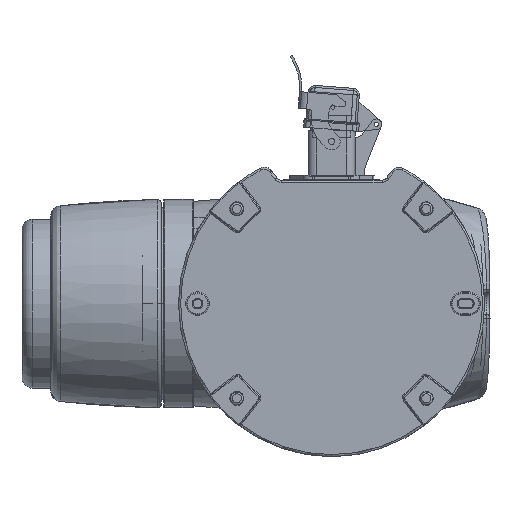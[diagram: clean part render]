
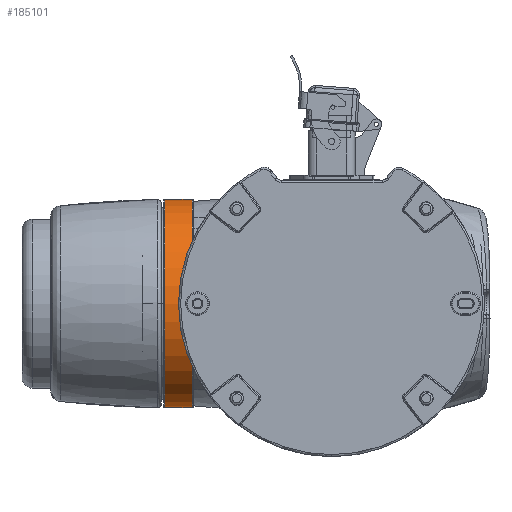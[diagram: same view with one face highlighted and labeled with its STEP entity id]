
A CAD part, front view. The second image highlights one B-rep face of the part: STEP entity #185101.
In plain terms, the highlighted cylindrical face has radius 49 mm (diameter 98 mm), a partial arc.
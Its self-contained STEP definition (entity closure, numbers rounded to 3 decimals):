
#7657 = DIRECTION ( 'NONE',  ( 0., 0., 1. ) ) ;
#11226 = CARTESIAN_POINT ( 'NONE',  ( -79., 0., -49. ) ) ;
#11619 = DIRECTION ( 'NONE',  ( -1., 0., 0. ) ) ;
#14093 = DIRECTION ( 'NONE',  ( -1., 0., 0. ) ) ;
#17944 = VECTOR ( 'NONE', #14093, 1000. ) ;
#29906 = VECTOR ( 'NONE', #135539, 1000. ) ;
#33277 = EDGE_CURVE ( 'NONE', #133392, #78186, #140582, .T. ) ;
#34431 = CARTESIAN_POINT ( 'NONE',  ( -78.5, 0., 49. ) ) ;
#38107 = ORIENTED_EDGE ( 'NONE', *, *, #33277, .T. ) ;
#46656 = LINE ( 'NONE', #222134, #17944 ) ;
#51315 = ORIENTED_EDGE ( 'NONE', *, *, #174202, .T. ) ;
#54729 = VERTEX_POINT ( 'NONE', #159856 ) ;
#63923 = FACE_OUTER_BOUND ( 'NONE', #89880, .T. ) ;
#68818 = ORIENTED_EDGE ( 'NONE', *, *, #96187, .F. ) ;
#78186 = VERTEX_POINT ( 'NONE', #152640 ) ;
#89880 = EDGE_LOOP ( 'NONE', ( #68818, #51315, #188025, #38107 ) ) ;
#96187 = EDGE_CURVE ( 'NONE', #54729, #78186, #206398, .T. ) ;
#99900 = CYLINDRICAL_SURFACE ( 'NONE', #197304, 49. ) ;
#118479 = DIRECTION ( 'NONE',  ( 0., 0., 1. ) ) ;
#133392 = VERTEX_POINT ( 'NONE', #34431 ) ;
#135539 = DIRECTION ( 'NONE',  ( -1., 0., 0. ) ) ;
#140582 = CIRCLE ( 'NONE', #181388, 49. ) ;
#152640 = CARTESIAN_POINT ( 'NONE',  ( -78.5, 0., -49. ) ) ;
#159856 = CARTESIAN_POINT ( 'NONE',  ( -65.5, 0., -49. ) ) ;
#169393 = DIRECTION ( 'NONE',  ( 0., 0., -1. ) ) ;
#170789 = CARTESIAN_POINT ( 'NONE',  ( -79., 0., 0. ) ) ;
#174202 = EDGE_CURVE ( 'NONE', #54729, #199046, #178552, .T. ) ;
#178552 = CIRCLE ( 'NONE', #193474, 49. ) ;
#181388 = AXIS2_PLACEMENT_3D ( 'NONE', #206554, #223963, #169393 ) ;
#185101 = ADVANCED_FACE ( 'NONE', ( #63923 ), #99900, .T. ) ;
#188025 = ORIENTED_EDGE ( 'NONE', *, *, #210354, .T. ) ;
#193474 = AXIS2_PLACEMENT_3D ( 'NONE', #222546, #201686, #7657 ) ;
#197304 = AXIS2_PLACEMENT_3D ( 'NONE', #170789, #11619, #118479 ) ;
#199046 = VERTEX_POINT ( 'NONE', #209510 ) ;
#201686 = DIRECTION ( 'NONE',  ( -1., 0., 0. ) ) ;
#206398 = LINE ( 'NONE', #11226, #29906 ) ;
#206554 = CARTESIAN_POINT ( 'NONE',  ( -78.5, 0., 0. ) ) ;
#209510 = CARTESIAN_POINT ( 'NONE',  ( -65.5, 0., 49. ) ) ;
#210354 = EDGE_CURVE ( 'NONE', #199046, #133392, #46656, .T. ) ;
#222134 = CARTESIAN_POINT ( 'NONE',  ( -79., 0., 49. ) ) ;
#222546 = CARTESIAN_POINT ( 'NONE',  ( -65.5, 0., 0. ) ) ;
#223963 = DIRECTION ( 'NONE',  ( 1., 0., 0. ) ) ;
